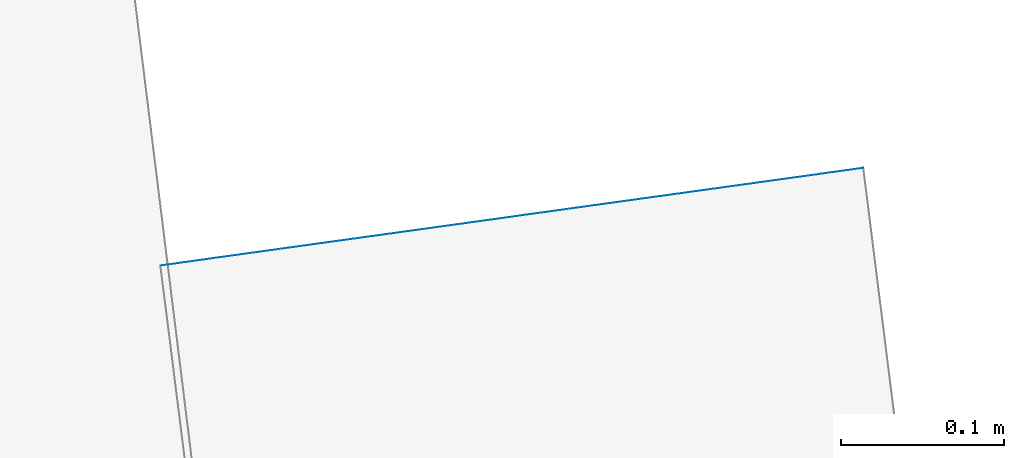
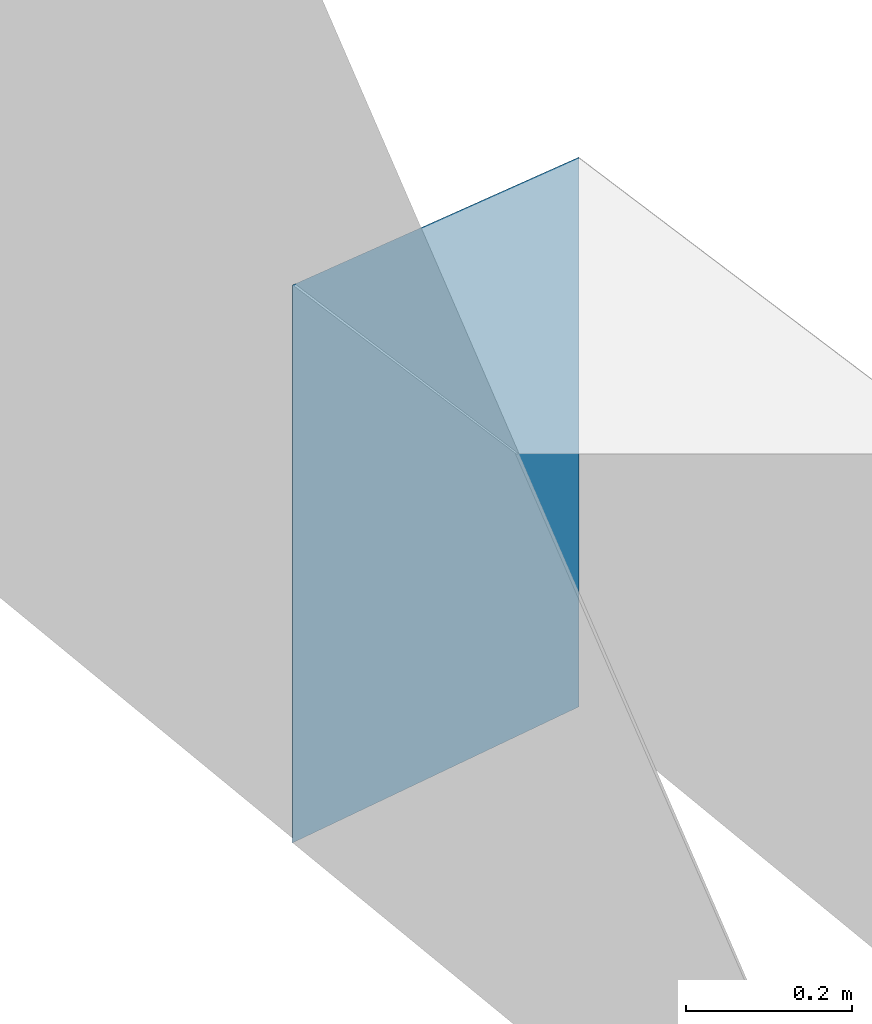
# Not in any storey, part 43 of 57: 1 wall.
"""IFC2X3 building model written with IfcOpenShell, lengths in metres."""

from ifc_helpers import new_model, entity, si_unit, converted_unit, origin, place, context, subcontext, project, spatial, face_set, surface_model, element, save


model = new_model("IFC2X3")

# Units and contexts
model_context = context("Model", 3, precision=1e-05, world=origin())
body_context = subcontext(model_context, "Body", "Model", "MODEL_VIEW")
ifc_project = project(units=[converted_unit("PLANEANGLEUNIT", "DEGREE", entity("IfcRatioMeasure", 0.0174532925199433), si_unit("PLANEANGLEUNIT", "RADIAN"), dimensions=[0, 0, 0, 0, 0, 0, 0]), si_unit("AREAUNIT", "SQUARE_METRE"), si_unit("LENGTHUNIT", "METRE")], contexts=[model_context])

# Site, building
site_placement = place(None, origin())
site = spatial("IfcSite", under=ifc_project, at=site_placement, Name="_site", CompositionType="ELEMENT")
building_placement = place(site_placement, origin())
building = spatial("IfcBuilding", under=site, at=building_placement, Name="_building", CompositionType="ELEMENT")

# Wall
wall_placement = place(building_placement, origin())
element("IfcWall", 1, at=wall_placement, inside=building, Name="Wall", context=body_context, shape_type="SurfaceModel", body=[
    surface_model("IfcFaceBasedSurfaceModel", [(99.361, 110.436, 112.69), (99.793, 110.496, 112.69), (99.793, 110.496, 111.883), (99.361, 110.436, 111.871)], [face_set([[[0, 1, 2, 3]]])]),
])

save(model, "model.ifc")
